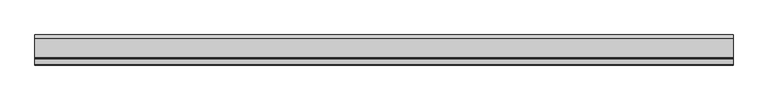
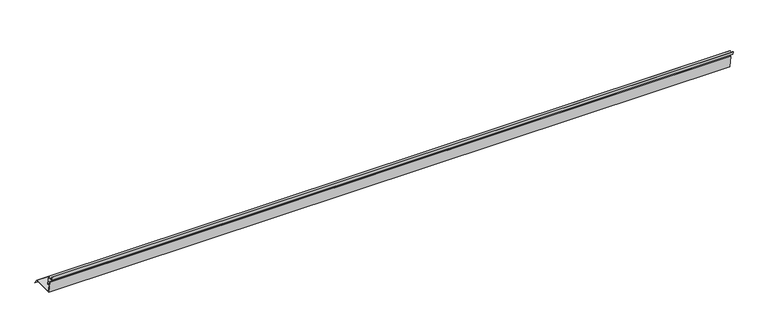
"""IFC4 building model written with IfcOpenShell, lengths in millimetres: proxy geometry, ATELIERS 3S_PARISIENNE 1000_NON-VENTILATED RIDGE AGAINST WALL : ATELIERS 3S_PARISIENNE 1000_NON-VENTILATED RIDGE AGAINST WALL."""

from ifc_helpers import new_model, si_unit, point, frame, frame_2d, origin, place, context, project, spatial, polyline, circle_curve, trimmed, segment, composite_curve, outline, extrude, source, transform, mapped, element, save


def generic_models_912018ec(model_context):
    return source(origin(), model_context, "Body", "SweptSolid", [
        extrude(outline(polyline([(160.9940784, 0.3163489), (186.805018, -36.5454931), (185.985866, -37.1190695), (160.4735114, -0.6836511), (-8.8295946, -0.6836511), (-26.3680606, 98.7819319), (-25.3832528, 98.9555801), (-7.990495, 0.3163489), (160.9940784, 0.3163489)])), frame((0.0, 0.0, 0.0), z_axis=(1.0, 0.0, 0.0), x_axis=(0.0, 1.0, 0.0)), (0.0, 0.0, 1.0), 5661.0),
        extrude(outline(composite_curve([segment(polyline([(-13.1023209, 138.7235936), (-52.494631, 131.7776665), (-57.1831318, 158.3674758), (-56.1983241, 158.541124), (-51.6834715, 132.9361224), (-12.2911613, 139.8820495), (0.7433177, 65.9598456)]), True, "CONTINUOUS"), segment(trimmed(circle_curve(frame_2d((-0.6113232, 65.7209859)), 1.3755384), [point((0.7433177, 65.9598456))], [point((-1.6650468, 64.8368068))], False, "CARTESIAN"), True, "CONTINUOUS"), segment(polyline([(-1.6650468, 64.8368068), (-9.292635, 73.9270124), (-8.5265905, 74.5698), (-0.8990024, 65.4795944)]), True, "CONTINUOUS"), segment(trimmed(circle_curve(frame_2d((-0.6113232, 65.7209859)), 0.3755384), [point((-0.8990024, 65.4795944))], [point((-0.2414901, 65.7861974))], True, "CARTESIAN"), True, "CONTINUOUS"), segment(polyline([(-0.2414901, 65.7861974), (-13.1023209, 138.7235936)]), True, "CONTINUOUS")], self_intersect=False)), frame((0.0, 0.0, 0.0), z_axis=(1.0, 0.0, 0.0), x_axis=(0.0, 1.0, 0.0)), (0.0, 0.0, 1.0), 5661.0),
    ])


if __name__ == "__main__":
    model = new_model("IFC4")
    model_context = context("Model", 3, world=origin())
    ifc_project = project(units=[si_unit("LENGTHUNIT", "METRE", prefix="MILLI")], contexts=[model_context])
    site = spatial("IfcSite", under=ifc_project)
    building = spatial("IfcBuilding", under=site)
    placement = place(None, origin())
    generic_models_shape = generic_models_912018ec(model_context)
    element("IfcBuildingElementProxy", 1, Name="ATELIERS 3S_PARISIENNE 1000_NON-VENTILATED RIDGE AGAINST WALL : ATELIERS 3S_PARISIENNE 1000_NON-VENTILATED RIDGE AGAINST WALL", ObjectType="ATELIERS 3S_PARISIENNE 1000_NON-VENTILATED RIDGE AGAINST WALL : ATELIERS 3S_PARISIENNE 1000_NON-VENTILATED RIDGE AGAINST WALL", at=placement, inside=building, context=model_context, shape_type="MappedRepresentation", body=[
        mapped(generic_models_shape, transform((0.0, 0.0, 0.0), x_axis=(1.0, 0.0, 0.0), y_axis=(0.0, 1.0, 0.0), z_axis=(0.0, 0.0, 1.0))),
    ])
    save(model, "model.ifc")
